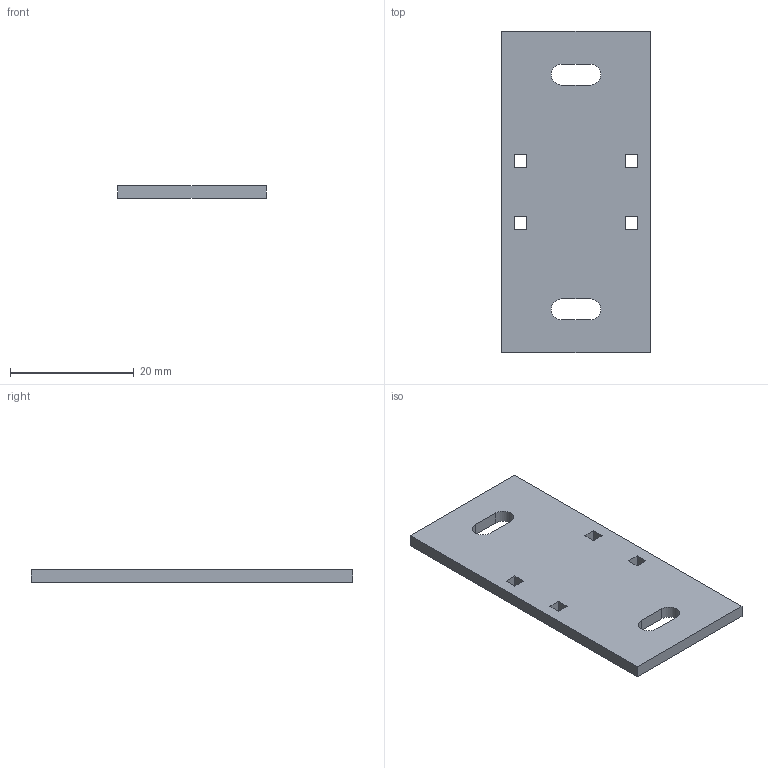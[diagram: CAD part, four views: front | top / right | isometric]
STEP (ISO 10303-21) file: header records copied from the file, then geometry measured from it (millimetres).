
FILE_DESCRIPTION(('Open CASCADE Model'),'2;1');
FILE_NAME('Open CASCADE Shape Model','2026-11-10T18:04:08',('Author'),( 'Open CASCADE'),'Open CASCADE STEP processor 7.9','Open CASCADE 7.9' ,'Unknown');
FILE_SCHEMA(('AUTOMOTIVE_DESIGN { 1 0 10303 214 1 1 1 1 }'));
Length unit declared in the file: millimetre
Products named in the file (1): Open CASCADE STEP translator 7.9 9
Bounding box: 24 x 52 x 2 mm (x, y, z)
Volume: 2365.1 mm3; surface area: 2812.6 mm2
Topology: 1 solids, 1 shells, 30 faces, 84 edges, 56 vertices
Faces by surface type: plane 26, cylinder 4
Entity records: 2026 total; most frequent: CARTESIAN_POINT 467, DIRECTION 234, ORIENTED_EDGE 168, PCURVE 168, DEFINITIONAL_REPRESENTATION 168, LINE 156, VECTOR 156, EDGE_CURVE 84
